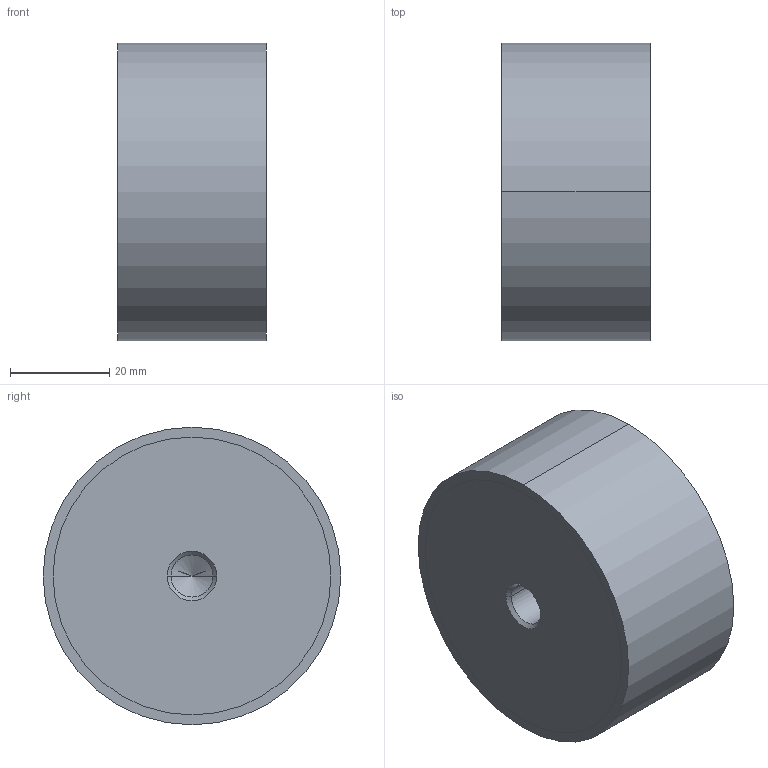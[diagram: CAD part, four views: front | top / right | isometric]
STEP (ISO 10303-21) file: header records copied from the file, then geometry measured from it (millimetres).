
FILE_DESCRIPTION (( 'STEP AP214' ), '1' );
FILE_NAME ('351-60-30-M10-EE-40.step', '2025-07-23T09:56:22', ( '' ), ( '' ), 'SwSTEP 2.0', 'SolidWorks 2022', '' );
FILE_SCHEMA (( 'AUTOMOTIVE_DESIGN' ));
Length unit declared in the file: millimetre
Products named in the file (1): 351-60-30-M10-EE-40
Bounding box: 30 x 60 x 60 mm (x, y, z)
Volume: 83399.3 mm3; surface area: 11905.4 mm2
Topology: 1 solids, 1 shells, 28 faces, 58 edges, 34 vertices
Faces by surface type: cylinder 14, cone 8, plane 6
Entity records: 844 total; most frequent: DIRECTION 144, CARTESIAN_POINT 117, ORIENTED_EDGE 108, AXIS2_PLACEMENT_3D 61, EDGE_CURVE 54, VERTEX_POINT 34, EDGE_LOOP 34, CIRCLE 32
